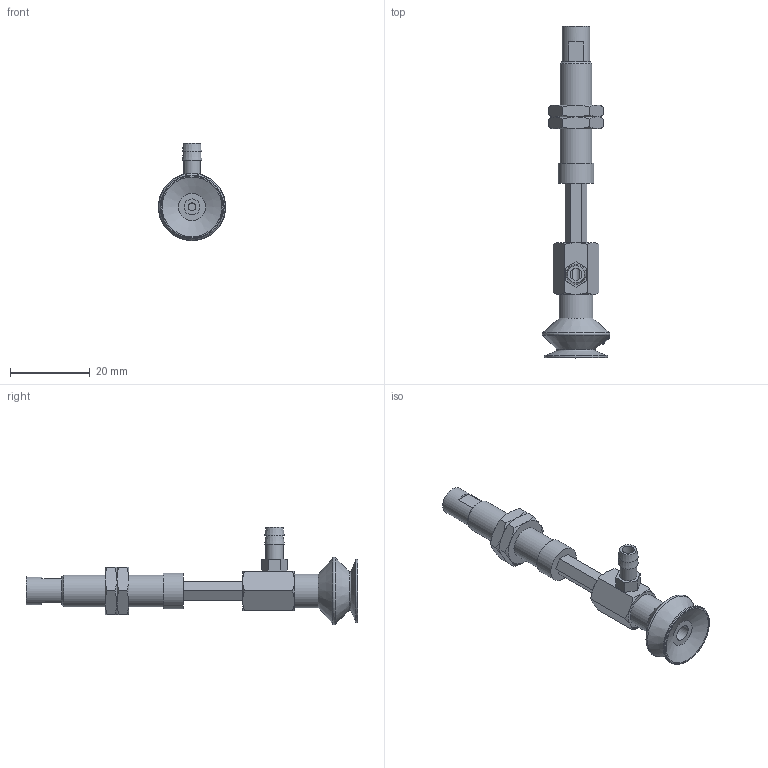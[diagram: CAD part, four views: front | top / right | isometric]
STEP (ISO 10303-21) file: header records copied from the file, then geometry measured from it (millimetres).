
FILE_DESCRIPTION(('STEP AP203'),'1');
FILE_NAME('-T.stp','2025-04-02T01:42:41',(' '),(' '),'Spatial InterOp 3D',' ',' ');
FILE_SCHEMA(('CONFIG_CONTROL_DESIGN'));
Length unit declared in the file: millimetre
Products named in the file (9): BNABPBYH-15A-15-※-T; CONNECTOR-15A-15-PB; Nut-15A-S-PB; NAPBTH-15A-15-FBODY; NAPBTH-15A-15-MBODY; BPBG-15A-※; __27; BPBG-15A; T
Assembly tree (9 placements, depth 3):
  BNABPBYH-15A-15-※-T
    CONNECTOR-15A-15-PB
    Nut-15A-S-PB  x2
    NAPBTH-15A-15-FBODY
    NAPBTH-15A-15-MBODY
    BPBG-15A-※
      __27
      BPBG-15A
    T
Bounding box: 17 x 83.5 x 24.5 mm (x, y, z)
Volume: 5204.8 mm3; surface area: 6023.3 mm2
Topology: 8 solids, 8 shells, 172 faces, 373 edges, 231 vertices
Faces by surface type: plane 76, cone 58, cylinder 19, torus 11, bspline 8
Full cylindrical faces by diameter (mm): 2 x1, 3 x1, 4 x3, 4.134 x2, 4.3 x1, 5 x2, 6 x2, 7 x1, 7.188 x2, 8 x1, 8.5 x1, 9 x1, 16 x1
Entity records: 5543 total; most frequent: CARTESIAN_POINT 2148, DIRECTION 597, ORIENTED_EDGE 536, EDGE_CURVE 268, AXIS2_PLACEMENT_3D 248, EDGE_LOOP 219, VERTEX_POINT 191, FACE_OUTER_BOUND 178
